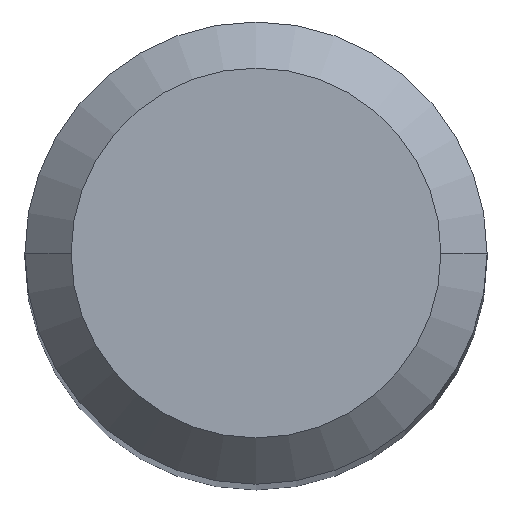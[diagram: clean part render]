
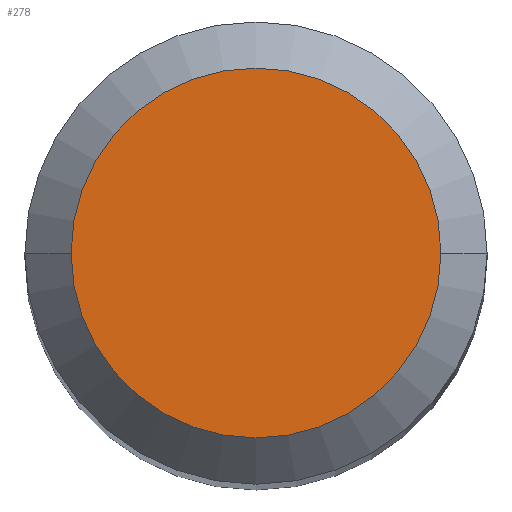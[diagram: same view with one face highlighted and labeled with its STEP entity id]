
A CAD part, top view. The second image highlights one B-rep face of the part: STEP entity #278.
In plain terms, the highlighted planar face has unit normal (0, 0, 1).
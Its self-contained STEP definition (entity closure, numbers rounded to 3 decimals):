
#23 = CARTESIAN_POINT ( 'NONE',  ( 2.4, 0., 0. ) ) ;
#26 = CARTESIAN_POINT ( 'NONE',  ( -2.4, 0., 0. ) ) ;
#41 = CARTESIAN_POINT ( 'NONE',  ( 0., 0., 0. ) ) ;
#42 = CIRCLE ( 'NONE', #100, 2.4 ) ;
#75 = EDGE_CURVE ( 'NONE', #549, #109, #567, .T. ) ;
#79 = EDGE_CURVE ( 'NONE', #109, #549, #42, .T. ) ;
#100 = AXIS2_PLACEMENT_3D ( 'NONE', #236, #426, #288 ) ;
#109 = VERTEX_POINT ( 'NONE', #26 ) ;
#149 = CARTESIAN_POINT ( 'NONE',  ( 0., 2.4, 0. ) ) ;
#199 = PLANE ( 'NONE',  #582 ) ;
#236 = CARTESIAN_POINT ( 'NONE',  ( 0., 0., 0. ) ) ;
#237 = ORIENTED_EDGE ( 'NONE', *, *, #79, .F. ) ;
#246 = DIRECTION ( 'NONE',  ( -1., 0., 0. ) ) ;
#268 = ORIENTED_EDGE ( 'NONE', *, *, #75, .F. ) ;
#278 = ADVANCED_FACE ( 'NONE', ( #296 ), #199, .T. ) ;
#288 = DIRECTION ( 'NONE',  ( -1., 0., 0. ) ) ;
#296 = FACE_OUTER_BOUND ( 'NONE', #418, .T. ) ;
#379 = AXIS2_PLACEMENT_3D ( 'NONE', #41, #471, #246 ) ;
#401 = DIRECTION ( 'NONE',  ( 1., 0., 0. ) ) ;
#418 = EDGE_LOOP ( 'NONE', ( #237, #268 ) ) ;
#426 = DIRECTION ( 'NONE',  ( 0., 0., -1. ) ) ;
#471 = DIRECTION ( 'NONE',  ( 0., 0., -1. ) ) ;
#549 = VERTEX_POINT ( 'NONE', #23 ) ;
#567 = CIRCLE ( 'NONE', #379, 2.4 ) ;
#582 = AXIS2_PLACEMENT_3D ( 'NONE', #149, #618, #401 ) ;
#618 = DIRECTION ( 'NONE',  ( 0., 0., 1. ) ) ;
